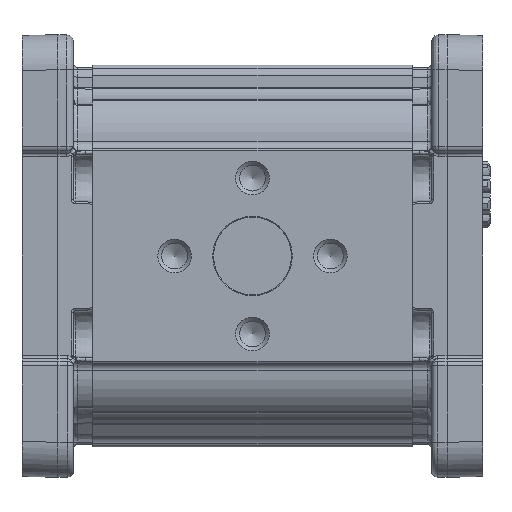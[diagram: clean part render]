
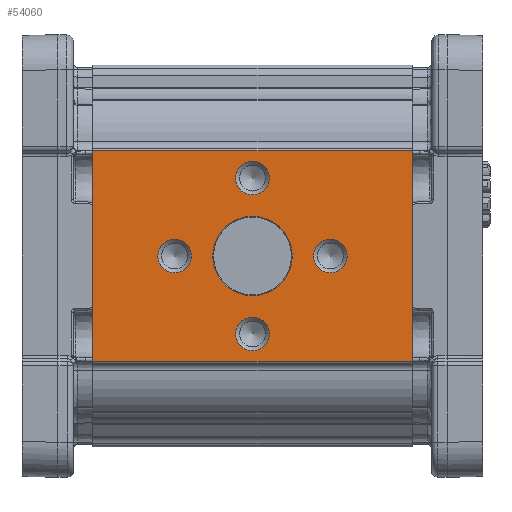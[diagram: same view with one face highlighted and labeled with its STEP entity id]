
A CAD part, left-side view. The second image highlights one B-rep face of the part: STEP entity #54060.
In plain terms, the highlighted planar face has unit normal (-1, 0, 0) as drawn and (1, 0, 0) by its records, which use the part's own axes.
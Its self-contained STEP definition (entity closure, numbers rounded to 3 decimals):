
#4820=CIRCLE('',#57866,10.2);
#4821=CIRCLE('',#57867,4.324);
#4822=CIRCLE('',#57868,4.324);
#4823=CIRCLE('',#57869,4.324);
#4824=CIRCLE('',#57870,4.324);
#13540=ORIENTED_EDGE('',*,*,#21701,.T.);
#13541=ORIENTED_EDGE('',*,*,#21702,.T.);
#13542=ORIENTED_EDGE('',*,*,#21703,.T.);
#13543=ORIENTED_EDGE('',*,*,#21704,.T.);
#13544=ORIENTED_EDGE('',*,*,#21705,.T.);
#13545=ORIENTED_EDGE('',*,*,#21680,.F.);
#13546=ORIENTED_EDGE('',*,*,#21706,.F.);
#13547=ORIENTED_EDGE('',*,*,#21610,.T.);
#13548=ORIENTED_EDGE('',*,*,#21707,.T.);
#21610=EDGE_CURVE('',#26173,#26172,#28975,.T.);
#21680=EDGE_CURVE('',#26240,#26241,#28987,.T.);
#21701=EDGE_CURVE('',#26245,#26245,#4820,.F.);
#21702=EDGE_CURVE('',#26246,#26246,#4821,.F.);
#21703=EDGE_CURVE('',#26247,#26247,#4822,.F.);
#21704=EDGE_CURVE('',#26248,#26248,#4823,.F.);
#21705=EDGE_CURVE('',#26249,#26249,#4824,.F.);
#21706=EDGE_CURVE('',#26173,#26240,#29004,.T.);
#21707=EDGE_CURVE('',#26172,#26241,#29005,.T.);
#26172=VERTEX_POINT('',#85134);
#26173=VERTEX_POINT('',#85136);
#26240=VERTEX_POINT('',#85273);
#26241=VERTEX_POINT('',#85275);
#26245=VERTEX_POINT('',#85309);
#26246=VERTEX_POINT('',#85311);
#26247=VERTEX_POINT('',#85313);
#26248=VERTEX_POINT('',#85315);
#26249=VERTEX_POINT('',#85317);
#28975=LINE('',#85135,#31023);
#28987=LINE('',#85274,#31035);
#29004=LINE('',#85318,#31052);
#29005=LINE('',#85319,#31053);
#31023=VECTOR('',#66504,1000.);
#31035=VECTOR('',#66634,1000.);
#31052=VECTOR('',#66687,1000.);
#31053=VECTOR('',#66688,1000.);
#33137=EDGE_LOOP('',(#13540));
#33138=EDGE_LOOP('',(#13541));
#33139=EDGE_LOOP('',(#13542));
#33140=EDGE_LOOP('',(#13543));
#33141=EDGE_LOOP('',(#13544));
#33142=EDGE_LOOP('',(#13545,#13546,#13547,#13548));
#35796=FACE_BOUND('',#33137,.T.);
#35797=FACE_BOUND('',#33138,.T.);
#35798=FACE_BOUND('',#33139,.T.);
#35799=FACE_BOUND('',#33140,.T.);
#35800=FACE_BOUND('',#33141,.T.);
#35801=FACE_BOUND('',#33142,.T.);
#37375=PLANE('',#57865);
#54060=ADVANCED_FACE('',(#35796,#35797,#35798,#35799,#35800,#35801),#37375,
 .T.);
#57865=AXIS2_PLACEMENT_3D('',#85307,#66675,#66676);
#57866=AXIS2_PLACEMENT_3D('',#85308,#66677,#66678);
#57867=AXIS2_PLACEMENT_3D('',#85310,#66679,#66680);
#57868=AXIS2_PLACEMENT_3D('',#85312,#66681,#66682);
#57869=AXIS2_PLACEMENT_3D('',#85314,#66683,#66684);
#57870=AXIS2_PLACEMENT_3D('',#85316,#66685,#66686);
#66504=DIRECTION('',(0.,0.,1.));
#66634=DIRECTION('',(0.,0.,1.));
#66675=DIRECTION('',(1.,0.,0.));
#66676=DIRECTION('',(0.,0.,-1.));
#66677=DIRECTION('',(1.,0.,0.));
#66678=DIRECTION('',(0.,0.,-1.));
#66679=DIRECTION('',(1.,0.,0.));
#66680=DIRECTION('',(0.,0.,-1.));
#66681=DIRECTION('',(1.,0.,0.));
#66682=DIRECTION('',(0.,0.,-1.));
#66683=DIRECTION('',(1.,0.,0.));
#66684=DIRECTION('',(0.,0.,-1.));
#66685=DIRECTION('',(1.,0.,0.));
#66686=DIRECTION('',(0.,0.,-1.));
#66687=DIRECTION('',(0.,-1.,0.));
#66688=DIRECTION('',(0.,-1.,0.));
#85134=CARTESIAN_POINT('',(43.,82.,27.048));
#85135=CARTESIAN_POINT('',(43.,82.,27.048));
#85136=CARTESIAN_POINT('',(43.,82.,-27.048));
#85273=CARTESIAN_POINT('',(43.,0.,-27.048));
#85274=CARTESIAN_POINT('',(43.,0.,27.048));
#85275=CARTESIAN_POINT('',(43.,0.,27.048));
#85307=CARTESIAN_POINT('',(43.,82.,27.048));
#85308=CARTESIAN_POINT('',(43.,41.,0.));
#85309=CARTESIAN_POINT('',(43.,41.,-10.2));
#85310=CARTESIAN_POINT('',(43.,41.,-20.));
#85311=CARTESIAN_POINT('',(43.,41.,-24.324));
#85312=CARTESIAN_POINT('',(43.,61.,0.));
#85313=CARTESIAN_POINT('',(43.,61.,-4.324));
#85314=CARTESIAN_POINT('',(43.,41.,20.));
#85315=CARTESIAN_POINT('',(43.,41.,15.677));
#85316=CARTESIAN_POINT('',(43.,21.,0.));
#85317=CARTESIAN_POINT('',(43.,21.,-4.323));
#85318=CARTESIAN_POINT('',(43.,82.,-27.048));
#85319=CARTESIAN_POINT('',(43.,82.,27.048));
